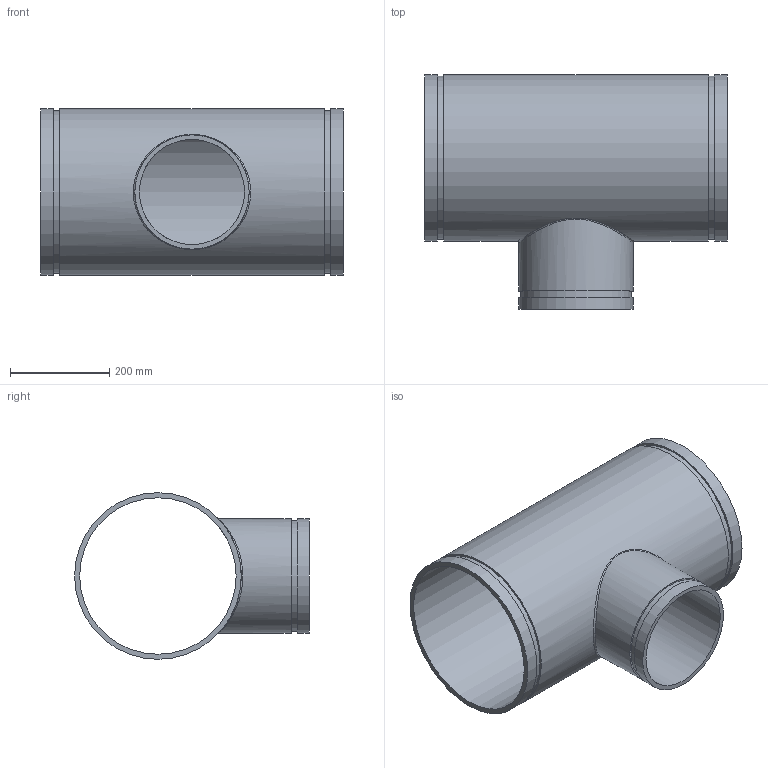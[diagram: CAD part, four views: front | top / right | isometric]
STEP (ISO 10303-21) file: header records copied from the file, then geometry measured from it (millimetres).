
FILE_DESCRIPTION(/* description */ ('VIC REDUCING TEE No 25-C','CAx-IF Rec.Pracs.---Representation and Presentation of Product Manufacturing Information (PMI)---4.0---2014-10-13'),/* implementation_level */ '2;1');
FILE_NAME(/* name */ 'C:\Users\Vjadhav\AppData\Roaming\Autodesk\ApplicationPlugins\Back Up\Victaulic_AWWA_Tee Reducing_No 25-C (DRG)\Victaulic_AWWA_Tee Reducing_No 25-C (DRG)_12.0x08.0 (300x200).stp',/* time_stamp */ '2020-08-18T18:18:00+06:00',/* author */ ('CORINNE GRAY'),/* organization */ ('Victaulic'),/* preprocessor_version */ 'ST-DEVELOPER v17.2',/* originating_system */ 'Autodesk Inventor 2019',/* authorisation */ '');
FILE_SCHEMA (('AP242_MANAGED_MODEL_BASED_3D_ENGINEERING_MIM_LF { 1 0 10303 442 1 1 4 }'));
Length unit declared in the file: inch
Products named in the file (1): 25C-12.0x08.0
Bounding box: 609.6 x 472.44 x 335.28 mm (x, y, z)
Volume: 6814023.6 mm3; surface area: 1435192.4 mm2
Topology: 1 solids, 1 shells, 20 faces, 44 edges, 33 vertices
Faces by surface type: cylinder 10, plane 9, bspline 1
Full cylindrical faces by diameter (mm): 211.582 x1, 223.037 x1, 229.87 x2, 314.96 x1, 327.812 x2, 335.28 x3
Entity records: 1067 total; most frequent: CARTESIAN_POINT 443, DIRECTION 135, ORIENTED_EDGE 90, AXIS2_PLACEMENT_3D 62, EDGE_CURVE 45, VERTEX_POINT 34, EDGE_LOOP 31, CIRCLE 29
